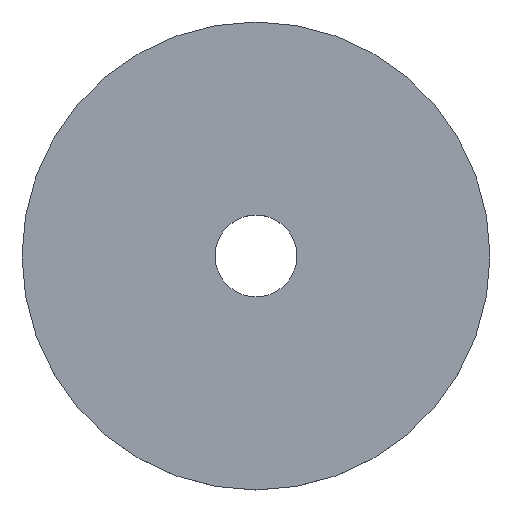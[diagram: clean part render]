
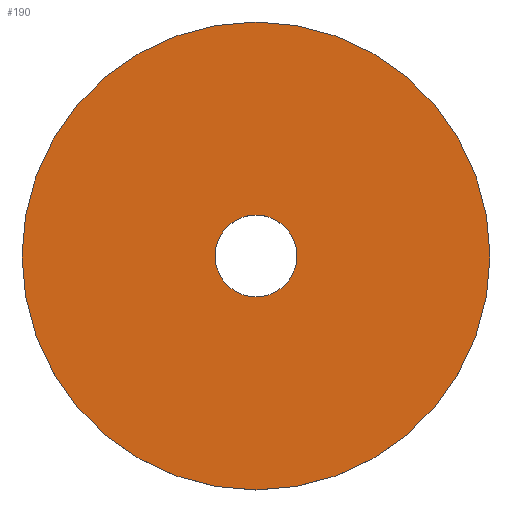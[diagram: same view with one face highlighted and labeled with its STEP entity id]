
A CAD part, top view. The second image highlights one B-rep face of the part: STEP entity #190.
In plain terms, the highlighted planar face has unit normal (0, 0, 1).
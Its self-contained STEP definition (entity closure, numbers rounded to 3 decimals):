
#24 = VERTEX_POINT('',#25);
#25 = CARTESIAN_POINT('',(20.,0.,2.));
#32 = CYLINDRICAL_SURFACE('',#33,20.);
#33 = AXIS2_PLACEMENT_3D('',#34,#35,#36);
#34 = CARTESIAN_POINT('',(0.,0.,0.));
#35 = DIRECTION('',(-0.,-0.,-1.));
#36 = DIRECTION('',(1.,0.,0.));
#51 = EDGE_CURVE('',#24,#24,#52,.T.);
#52 = SURFACE_CURVE('',#53,(#58,#65),.PCURVE_S1.);
#53 = CIRCLE('',#54,20.);
#54 = AXIS2_PLACEMENT_3D('',#55,#56,#57);
#55 = CARTESIAN_POINT('',(0.,0.,2.));
#56 = DIRECTION('',(0.,0.,1.));
#57 = DIRECTION('',(1.,0.,0.));
#58 = PCURVE('',#32,#59);
#59 = DEFINITIONAL_REPRESENTATION('',(#60),#64);
#60 = LINE('',#61,#62);
#61 = CARTESIAN_POINT('',(-0.,-2.));
#62 = VECTOR('',#63,1.);
#63 = DIRECTION('',(-1.,0.));
#64 = ( GEOMETRIC_REPRESENTATION_CONTEXT(2) 
PARAMETRIC_REPRESENTATION_CONTEXT() REPRESENTATION_CONTEXT('2D SPACE',''
  ) );
#65 = PCURVE('',#66,#71);
#66 = PLANE('',#67);
#67 = AXIS2_PLACEMENT_3D('',#68,#69,#70);
#68 = CARTESIAN_POINT('',(0.,0.,2.));
#69 = DIRECTION('',(0.,0.,1.));
#70 = DIRECTION('',(1.,0.,-0.));
#71 = DEFINITIONAL_REPRESENTATION('',(#72),#76);
#72 = CIRCLE('',#73,20.);
#73 = AXIS2_PLACEMENT_2D('',#74,#75);
#74 = CARTESIAN_POINT('',(0.,0.));
#75 = DIRECTION('',(1.,0.));
#76 = ( GEOMETRIC_REPRESENTATION_CONTEXT(2) 
PARAMETRIC_REPRESENTATION_CONTEXT() REPRESENTATION_CONTEXT('2D SPACE',''
  ) );
#112 = VERTEX_POINT('',#113);
#113 = CARTESIAN_POINT('',(3.5,0.,2.));
#120 = CYLINDRICAL_SURFACE('',#121,3.5);
#121 = AXIS2_PLACEMENT_3D('',#122,#123,#124);
#122 = CARTESIAN_POINT('',(0.,0.,0.));
#123 = DIRECTION('',(-0.,-0.,-1.));
#124 = DIRECTION('',(1.,0.,0.));
#139 = EDGE_CURVE('',#112,#112,#140,.T.);
#140 = SURFACE_CURVE('',#141,(#146,#153),.PCURVE_S1.);
#141 = CIRCLE('',#142,3.5);
#142 = AXIS2_PLACEMENT_3D('',#143,#144,#145);
#143 = CARTESIAN_POINT('',(0.,0.,2.));
#144 = DIRECTION('',(0.,0.,1.));
#145 = DIRECTION('',(1.,0.,0.));
#146 = PCURVE('',#120,#147);
#147 = DEFINITIONAL_REPRESENTATION('',(#148),#152);
#148 = LINE('',#149,#150);
#149 = CARTESIAN_POINT('',(-0.,-2.));
#150 = VECTOR('',#151,1.);
#151 = DIRECTION('',(-1.,0.));
#152 = ( GEOMETRIC_REPRESENTATION_CONTEXT(2) 
PARAMETRIC_REPRESENTATION_CONTEXT() REPRESENTATION_CONTEXT('2D SPACE',''
  ) );
#153 = PCURVE('',#66,#154);
#154 = DEFINITIONAL_REPRESENTATION('',(#155),#159);
#155 = CIRCLE('',#156,3.5);
#156 = AXIS2_PLACEMENT_2D('',#157,#158);
#157 = CARTESIAN_POINT('',(0.,0.));
#158 = DIRECTION('',(1.,0.));
#159 = ( GEOMETRIC_REPRESENTATION_CONTEXT(2) 
PARAMETRIC_REPRESENTATION_CONTEXT() REPRESENTATION_CONTEXT('2D SPACE',''
  ) );
#190 = ADVANCED_FACE('',(#191,#194),#66,.T.);
#191 = FACE_BOUND('',#192,.T.);
#192 = EDGE_LOOP('',(#193));
#193 = ORIENTED_EDGE('',*,*,#51,.T.);
#194 = FACE_BOUND('',#195,.T.);
#195 = EDGE_LOOP('',(#196));
#196 = ORIENTED_EDGE('',*,*,#139,.F.);
